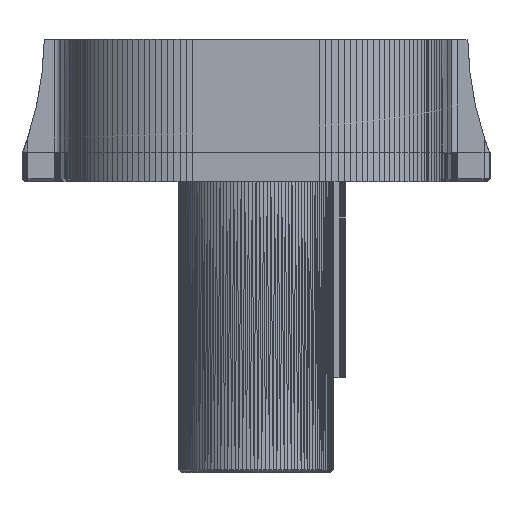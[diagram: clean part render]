
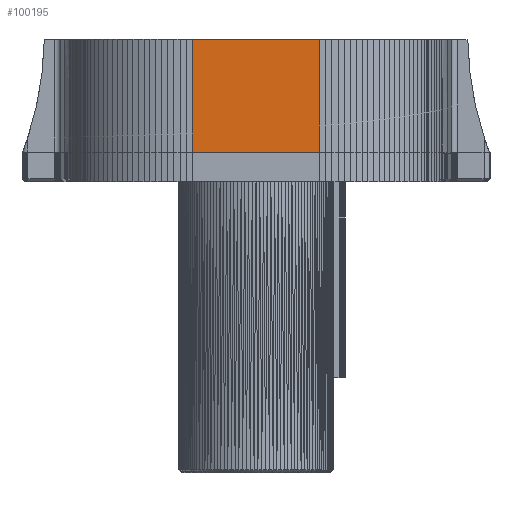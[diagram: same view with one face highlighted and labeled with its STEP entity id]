
A CAD part, left-side view. The second image highlights one B-rep face of the part: STEP entity #100195.
In plain terms, the highlighted planar face has unit normal (-1, 0, 0).
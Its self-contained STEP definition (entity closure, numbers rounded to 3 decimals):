
#7132=FACE_OUTER_BOUND('',#13891,.T.);
#13891=EDGE_LOOP('',(#86729,#86730,#86731,#86732));
#24455=LINE('',#155846,#37545);
#25072=LINE('',#157264,#38162);
#26982=LINE('',#161135,#40072);
#26983=LINE('',#161137,#40073);
#37545=VECTOR('',#129150,10.);
#38162=VECTOR('',#130281,10.);
#40072=VECTOR('',#134285,10.);
#40073=VECTOR('',#134288,10.);
#45309=VERTEX_POINT('',#155843);
#45310=VERTEX_POINT('',#155845);
#45839=VERTEX_POINT('',#157261);
#45840=VERTEX_POINT('',#157263);
#57438=EDGE_CURVE('',#45310,#45309,#24455,.T.);
#58143=EDGE_CURVE('',#45840,#45839,#25072,.T.);
#60069=EDGE_CURVE('',#45840,#45309,#26982,.T.);
#60070=EDGE_CURVE('',#45839,#45310,#26983,.T.);
#86729=ORIENTED_EDGE('',*,*,#57438,.T.);
#86730=ORIENTED_EDGE('',*,*,#60069,.F.);
#86731=ORIENTED_EDGE('',*,*,#58143,.T.);
#86732=ORIENTED_EDGE('',*,*,#60070,.T.);
#93456=PLANE('',#107226);
#100195=ADVANCED_FACE('',(#7132),#93456,.T.);
#107226=AXIS2_PLACEMENT_3D('',#161136,#134286,#134287);
#129150=DIRECTION('',(0.,-1.,0.));
#130281=DIRECTION('',(0.,1.,0.002));
#134285=DIRECTION('',(0.,0.,-1.));
#134286=DIRECTION('center_axis',(-1.,0.,0.));
#134287=DIRECTION('ref_axis',(0.,0.,1.));
#134288=DIRECTION('',(0.,0.,-1.));
#155843=CARTESIAN_POINT('',(-14.,-10.704,-4.));
#155845=CARTESIAN_POINT('',(-14.,10.704,-4.));
#155846=CARTESIAN_POINT('',(-14.,5.353,-4.));
#157261=CARTESIAN_POINT('',(-14.,10.704,14.982));
#157263=CARTESIAN_POINT('',(-14.,-10.704,14.946));
#157264=CARTESIAN_POINT('',(-14.,5.332,14.973));
#161135=CARTESIAN_POINT('',(-14.,-10.704,-0.5));
#161136=CARTESIAN_POINT('Origin',(-14.,10.704,-8.5));
#161137=CARTESIAN_POINT('',(-14.,10.704,-0.5));
